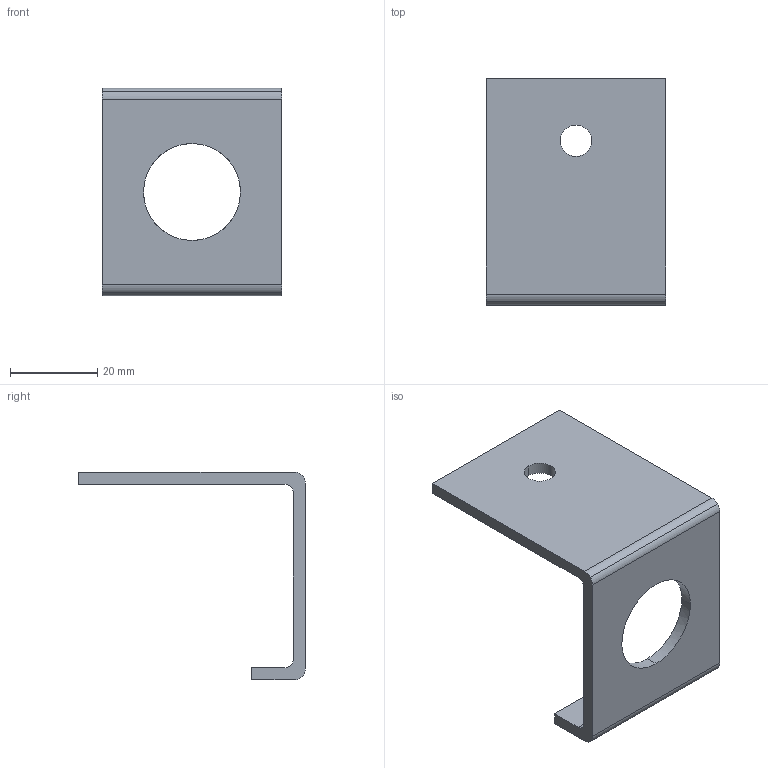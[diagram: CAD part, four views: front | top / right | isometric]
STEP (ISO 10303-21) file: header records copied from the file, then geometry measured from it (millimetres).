
FILE_DESCRIPTION(('TurboCAD Mac Pro'),'Build 980');
FILE_NAME('P2521-50.stp',' ',(''),(''),'ACIS Interop','IMSI','TurboCAD Mac Pro BY IMSI, INCORPORATED');
FILE_SCHEMA(('automotive_design'));
Length unit declared in the file: inch
Products named in the file (1): 1
Bounding box: 41.27 x 51.98 x 47.61 mm (x, y, z)
Volume: 10918 mm3; surface area: 8835.5 mm2
Topology: 1 solids, 1 shells, 26 faces, 72 edges, 48 vertices
Faces by surface type: plane 10, cylinder 8, bspline 8
Entity records: 1120 total; most frequent: CARTESIAN_POINT 251, ORIENTED_EDGE 144, DIRECTION 110, EDGE_CURVE 72, VERTEX_POINT 48, LINE 40, VECTOR 40, AXIS2_PLACEMENT_3D 35
